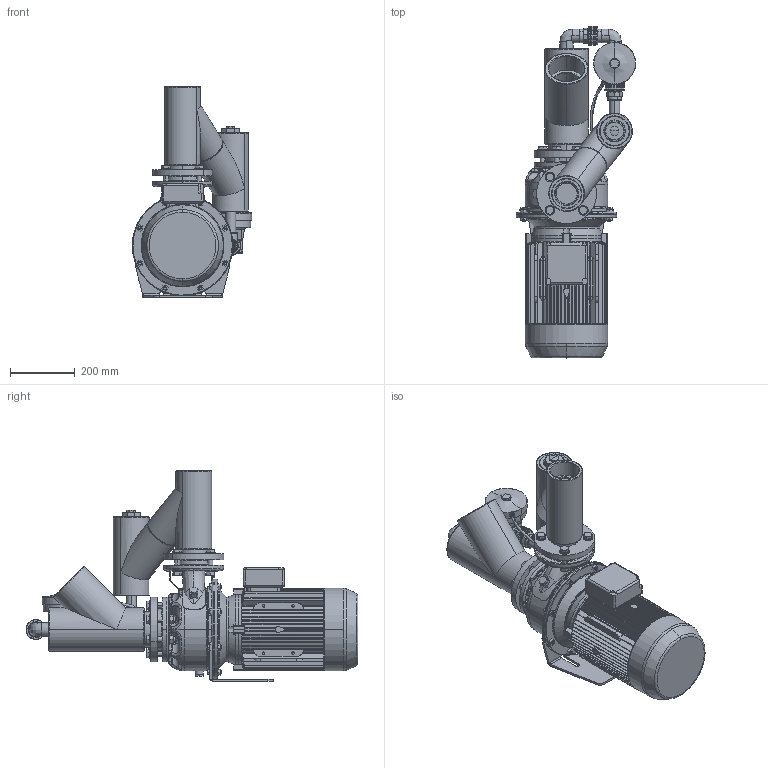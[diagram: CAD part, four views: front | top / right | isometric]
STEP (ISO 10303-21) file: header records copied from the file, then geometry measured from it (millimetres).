
FILE_DESCRIPTION (( 'STEP AP203' ), '1' );
FILE_NAME ('Lowara SHE 65-160 z.a.z auto. by-pass.STEP', '2011-04-07T12:33:17', ( '' ), ( '' ), 'SwSTEP 2.0', 'SolidWorks 2010', '' );
FILE_SCHEMA (( 'CONFIG_CONTROL_DESIGN' ));
Products named in the file (1): Lowara SHE 65-160 z.a.z auto. by-pass
Bounding box: 368 x 1023.91 x 650.24 mm (x, y, z)
Volume: 35991638 mm3; surface area: 3334314.8 mm2
Topology: 83 solids, 85 shells, 3364 faces, 8366 edges, 5203 vertices
Faces by surface type: plane 1239, cylinder 1042, cone 605, bspline 433, torus 45
Entity records: 141215 total; most frequent: CARTESIAN_POINT 65352, ORIENTED_EDGE 16550, DIRECTION 15013, EDGE_CURVE 8275, AXIS2_PLACEMENT_3D 6013, VERTEX_POINT 5208, EDGE_LOOP 3699, FACE_OUTER_BOUND 3365
